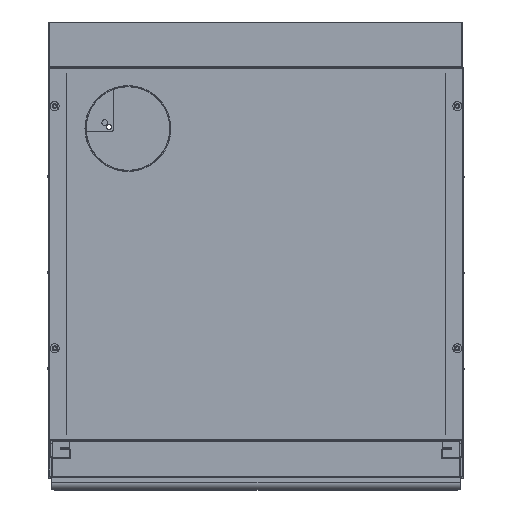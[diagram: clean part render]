
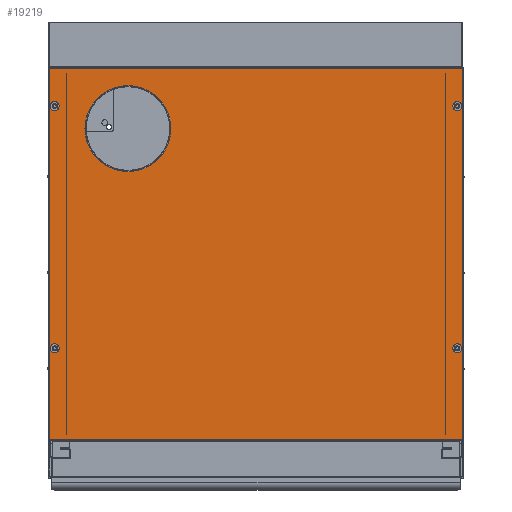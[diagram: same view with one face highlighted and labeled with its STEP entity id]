
A CAD part, top view. The second image highlights one B-rep face of the part: STEP entity #19219.
In plain terms, the highlighted planar face has unit normal (0, 0, 1).
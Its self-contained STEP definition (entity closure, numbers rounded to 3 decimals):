
#1688 = ORIENTED_EDGE ( 'NONE', *, *, #28167, .T. ) ;
#1717 = CARTESIAN_POINT ( 'NONE',  ( 332.7, -152.992, 1269.602 ) ) ;
#1763 = ORIENTED_EDGE ( 'NONE', *, *, #56307, .T. ) ;
#1947 = DIRECTION ( 'NONE',  ( 0., 0., 1. ) ) ;
#2942 = CARTESIAN_POINT ( 'NONE',  ( -332.7, 247.008, 1269.602 ) ) ;
#3603 = CARTESIAN_POINT ( 'NONE',  ( 340.2, -152.992, 1269.602 ) ) ;
#4763 = CIRCLE ( 'NONE', #8627, 7.5 ) ;
#5185 = CARTESIAN_POINT ( 'NONE',  ( 341.698, 310.008, 1269.602 ) ) ;
#5603 = LINE ( 'NONE', #35435, #67757 ) ;
#5718 = VERTEX_POINT ( 'NONE', #21877 ) ;
#6688 = CARTESIAN_POINT ( 'NONE',  ( -211.5, 210.008, 1269.602 ) ) ;
#6935 = VERTEX_POINT ( 'NONE', #48998 ) ;
#7690 = CARTESIAN_POINT ( 'NONE',  ( 341.7, 310.008, 1269.602 ) ) ;
#7737 = DIRECTION ( 'NONE',  ( -1., 0., 0. ) ) ;
#8270 = DIRECTION ( 'NONE',  ( 0., 0., -1. ) ) ;
#8627 = AXIS2_PLACEMENT_3D ( 'NONE', #14303, #56438, #20348 ) ;
#8916 = VERTEX_POINT ( 'NONE', #37272 ) ;
#8955 = DIRECTION ( 'NONE',  ( -1., 0., 0. ) ) ;
#9539 = AXIS2_PLACEMENT_3D ( 'NONE', #61277, #25190, #67327 ) ;
#9914 = AXIS2_PLACEMENT_3D ( 'NONE', #20651, #62749, #26676 ) ;
#10647 = ORIENTED_EDGE ( 'NONE', *, *, #34552, .T. ) ;
#11464 = VECTOR ( 'NONE', #17285, 1000. ) ;
#12195 = CARTESIAN_POINT ( 'NONE',  ( -332.7, -152.992, 1269.602 ) ) ;
#12576 = EDGE_LOOP ( 'NONE', ( #1763, #55477 ) ) ;
#12770 = DIRECTION ( 'NONE',  ( -1., 0., 0. ) ) ;
#12867 = CIRCLE ( 'NONE', #60380, 7.5 ) ;
#13062 = VERTEX_POINT ( 'NONE', #47518 ) ;
#13166 = EDGE_CURVE ( 'NONE', #21301, #6935, #12867, .T. ) ;
#13185 = EDGE_LOOP ( 'NONE', ( #34740, #72023 ) ) ;
#13351 = CIRCLE ( 'NONE', #13995, 71. ) ;
#13397 = CARTESIAN_POINT ( 'NONE',  ( 341.698, -302.992, 1269.602 ) ) ;
#13974 = VERTEX_POINT ( 'NONE', #68793 ) ;
#13995 = AXIS2_PLACEMENT_3D ( 'NONE', #6688, #48859, #12770 ) ;
#14303 = CARTESIAN_POINT ( 'NONE',  ( 332.7, 247.008, 1269.602 ) ) ;
#14533 = CARTESIAN_POINT ( 'NONE',  ( -341.698, 310.006, 1269.602 ) ) ;
#14793 = EDGE_CURVE ( 'NONE', #6935, #21301, #50449, .T. ) ;
#16851 = CARTESIAN_POINT ( 'NONE',  ( -140.5, 210.008, 1269.602 ) ) ;
#16948 = AXIS2_PLACEMENT_3D ( 'NONE', #7690, #1947, #44047 ) ;
#17285 = DIRECTION ( 'NONE',  ( 0., 1., 0. ) ) ;
#18219 = VERTEX_POINT ( 'NONE', #66621 ) ;
#18229 = DIRECTION ( 'NONE',  ( -1., 0., 0. ) ) ;
#18625 = FACE_BOUND ( 'NONE', #70252, .T. ) ;
#19219 = ADVANCED_FACE ( 'NONE', ( #64763, #18625, #34627, #48811, #32754, #40295 ), #37943, .T. ) ;
#20348 = DIRECTION ( 'NONE',  ( -1., 0., 0. ) ) ;
#20559 = EDGE_CURVE ( 'NONE', #74090, #13062, #24060, .T. ) ;
#20651 = CARTESIAN_POINT ( 'NONE',  ( 332.7, 247.008, 1269.602 ) ) ;
#21301 = VERTEX_POINT ( 'NONE', #66096 ) ;
#21877 = CARTESIAN_POINT ( 'NONE',  ( -341.698, -302.992, 1269.602 ) ) ;
#22062 = CARTESIAN_POINT ( 'NONE',  ( 340.2, 247.008, 1269.602 ) ) ;
#22656 = VERTEX_POINT ( 'NONE', #3603 ) ;
#23239 = AXIS2_PLACEMENT_3D ( 'NONE', #2942, #45071, #8955 ) ;
#23328 = DIRECTION ( 'NONE',  ( 0., -1., 0. ) ) ;
#24060 = CIRCLE ( 'NONE', #41722, 7.5 ) ;
#24079 = EDGE_LOOP ( 'NONE', ( #26142, #10647, #77729, #1688, #69523, #36123 ) ) ;
#24864 = VERTEX_POINT ( 'NONE', #55056 ) ;
#25190 = DIRECTION ( 'NONE',  ( 0., 0., -1. ) ) ;
#25910 = VERTEX_POINT ( 'NONE', #16851 ) ;
#26142 = ORIENTED_EDGE ( 'NONE', *, *, #47596, .T. ) ;
#26319 = ORIENTED_EDGE ( 'NONE', *, *, #13166, .T. ) ;
#26676 = DIRECTION ( 'NONE',  ( -1., 0., 0. ) ) ;
#27869 = LINE ( 'NONE', #40017, #58036 ) ;
#28167 = EDGE_CURVE ( 'NONE', #70022, #5718, #5603, .T. ) ;
#28552 = LINE ( 'NONE', #67867, #74730 ) ;
#29545 = DIRECTION ( 'NONE',  ( -1., 0., 0. ) ) ;
#30162 = DIRECTION ( 'NONE',  ( 0., 0., -1. ) ) ;
#31361 = CARTESIAN_POINT ( 'NONE',  ( -332.7, 247.008, 1269.602 ) ) ;
#32754 = FACE_BOUND ( 'NONE', #13185, .T. ) ;
#33354 = CARTESIAN_POINT ( 'NONE',  ( -341.696, 310.006, 1269.602 ) ) ;
#34048 = CIRCLE ( 'NONE', #41069, 7.5 ) ;
#34234 = ORIENTED_EDGE ( 'NONE', *, *, #48699, .T. ) ;
#34552 = EDGE_CURVE ( 'NONE', #13974, #40461, #27869, .T. ) ;
#34627 = FACE_BOUND ( 'NONE', #74110, .T. ) ;
#34740 = ORIENTED_EDGE ( 'NONE', *, *, #20559, .T. ) ;
#35435 = CARTESIAN_POINT ( 'NONE',  ( -341.698, 310.008, 1269.602 ) ) ;
#36036 = EDGE_CURVE ( 'NONE', #5718, #70498, #28552, .T. ) ;
#36123 = ORIENTED_EDGE ( 'NONE', *, *, #38037, .T. ) ;
#36753 = VERTEX_POINT ( 'NONE', #52484 ) ;
#37272 = CARTESIAN_POINT ( 'NONE',  ( 325.2, 247.008, 1269.602 ) ) ;
#37419 = DIRECTION ( 'NONE',  ( -1., 0., 0. ) ) ;
#37943 = PLANE ( 'NONE',  #16948 ) ;
#38037 = EDGE_CURVE ( 'NONE', #70498, #24864, #59479, .T. ) ;
#38101 = ORIENTED_EDGE ( 'NONE', *, *, #55035, .T. ) ;
#40017 = CARTESIAN_POINT ( 'NONE',  ( 341.7, 310.006, 1269.602 ) ) ;
#40295 = FACE_OUTER_BOUND ( 'NONE', #24079, .T. ) ;
#40461 = VERTEX_POINT ( 'NONE', #33354 ) ;
#41069 = AXIS2_PLACEMENT_3D ( 'NONE', #44370, #8270, #50412 ) ;
#41722 = AXIS2_PLACEMENT_3D ( 'NONE', #31361, #73519, #37419 ) ;
#42529 = ORIENTED_EDGE ( 'NONE', *, *, #59530, .T. ) ;
#43098 = AXIS2_PLACEMENT_3D ( 'NONE', #66199, #30162, #72281 ) ;
#43600 = ORIENTED_EDGE ( 'NONE', *, *, #14793, .T. ) ;
#43830 = DIRECTION ( 'NONE',  ( 0., 0., -1. ) ) ;
#44047 = DIRECTION ( 'NONE',  ( 1., 0., 0. ) ) ;
#44370 = CARTESIAN_POINT ( 'NONE',  ( 332.7, -152.992, 1269.602 ) ) ;
#45071 = DIRECTION ( 'NONE',  ( 0., 0., -1. ) ) ;
#45571 = CARTESIAN_POINT ( 'NONE',  ( 341.7, 310.006, 1269.602 ) ) ;
#46081 = VERTEX_POINT ( 'NONE', #22062 ) ;
#47383 = EDGE_LOOP ( 'NONE', ( #43600, #26319 ) ) ;
#47518 = CARTESIAN_POINT ( 'NONE',  ( -325.2, 247.008, 1269.602 ) ) ;
#47596 = EDGE_CURVE ( 'NONE', #24864, #13974, #64563, .T. ) ;
#48598 = VECTOR ( 'NONE', #63672, 1000. ) ;
#48699 = EDGE_CURVE ( 'NONE', #8916, #46081, #65293, .T. ) ;
#48811 = FACE_BOUND ( 'NONE', #47383, .T. ) ;
#48859 = DIRECTION ( 'NONE',  ( 0., 0., -1. ) ) ;
#48998 = CARTESIAN_POINT ( 'NONE',  ( -340.2, -152.992, 1269.602 ) ) ;
#50412 = DIRECTION ( 'NONE',  ( -1., 0., 0. ) ) ;
#50449 = CIRCLE ( 'NONE', #9539, 7.5 ) ;
#52156 = DIRECTION ( 'NONE',  ( -1., 0., 0. ) ) ;
#52484 = CARTESIAN_POINT ( 'NONE',  ( -282.5, 210.008, 1269.602 ) ) ;
#52895 = EDGE_CURVE ( 'NONE', #46081, #8916, #4763, .T. ) ;
#53268 = CIRCLE ( 'NONE', #43098, 71. ) ;
#53296 = EDGE_CURVE ( 'NONE', #13062, #74090, #74423, .T. ) ;
#54312 = DIRECTION ( 'NONE',  ( 0., 0., -1. ) ) ;
#55035 = EDGE_CURVE ( 'NONE', #18219, #22656, #72257, .T. ) ;
#55056 = CARTESIAN_POINT ( 'NONE',  ( 341.698, 310.006, 1269.602 ) ) ;
#55477 = ORIENTED_EDGE ( 'NONE', *, *, #61948, .T. ) ;
#56307 = EDGE_CURVE ( 'NONE', #36753, #25910, #53268, .T. ) ;
#56438 = DIRECTION ( 'NONE',  ( 0., 0., -1. ) ) ;
#58036 = VECTOR ( 'NONE', #52156, 1000. ) ;
#59479 = LINE ( 'NONE', #5185, #11464 ) ;
#59530 = EDGE_CURVE ( 'NONE', #22656, #18219, #34048, .T. ) ;
#59701 = VECTOR ( 'NONE', #29545, 1000. ) ;
#60370 = ORIENTED_EDGE ( 'NONE', *, *, #52895, .T. ) ;
#60380 = AXIS2_PLACEMENT_3D ( 'NONE', #12195, #54312, #18229 ) ;
#61277 = CARTESIAN_POINT ( 'NONE',  ( -332.7, -152.992, 1269.602 ) ) ;
#61948 = EDGE_CURVE ( 'NONE', #25910, #36753, #13351, .T. ) ;
#62749 = DIRECTION ( 'NONE',  ( 0., 0., -1. ) ) ;
#63672 = DIRECTION ( 'NONE',  ( -1., 0., 0. ) ) ;
#64563 = LINE ( 'NONE', #45571, #48598 ) ;
#64763 = FACE_BOUND ( 'NONE', #12576, .T. ) ;
#65293 = CIRCLE ( 'NONE', #9914, 7.5 ) ;
#65574 = CARTESIAN_POINT ( 'NONE',  ( 341.7, 310.006, 1269.602 ) ) ;
#66096 = CARTESIAN_POINT ( 'NONE',  ( -325.2, -152.992, 1269.602 ) ) ;
#66199 = CARTESIAN_POINT ( 'NONE',  ( -211.5, 210.008, 1269.602 ) ) ;
#66621 = CARTESIAN_POINT ( 'NONE',  ( 325.2, -152.992, 1269.602 ) ) ;
#66685 = AXIS2_PLACEMENT_3D ( 'NONE', #1717, #43830, #7737 ) ;
#67327 = DIRECTION ( 'NONE',  ( -1., 0., 0. ) ) ;
#67608 = DIRECTION ( 'NONE',  ( 1., 0., 0. ) ) ;
#67757 = VECTOR ( 'NONE', #23328, 1000. ) ;
#67867 = CARTESIAN_POINT ( 'NONE',  ( 341.7, -302.992, 1269.602 ) ) ;
#68793 = CARTESIAN_POINT ( 'NONE',  ( 341.696, 310.006, 1269.602 ) ) ;
#69466 = EDGE_CURVE ( 'NONE', #40461, #70022, #71916, .T. ) ;
#69523 = ORIENTED_EDGE ( 'NONE', *, *, #36036, .T. ) ;
#70022 = VERTEX_POINT ( 'NONE', #14533 ) ;
#70231 = CARTESIAN_POINT ( 'NONE',  ( -340.2, 247.008, 1269.602 ) ) ;
#70252 = EDGE_LOOP ( 'NONE', ( #38101, #42529 ) ) ;
#70498 = VERTEX_POINT ( 'NONE', #13397 ) ;
#71916 = LINE ( 'NONE', #65574, #59701 ) ;
#72023 = ORIENTED_EDGE ( 'NONE', *, *, #53296, .T. ) ;
#72257 = CIRCLE ( 'NONE', #66685, 7.5 ) ;
#72281 = DIRECTION ( 'NONE',  ( -1., 0., 0. ) ) ;
#73519 = DIRECTION ( 'NONE',  ( 0., 0., -1. ) ) ;
#74090 = VERTEX_POINT ( 'NONE', #70231 ) ;
#74110 = EDGE_LOOP ( 'NONE', ( #34234, #60370 ) ) ;
#74423 = CIRCLE ( 'NONE', #23239, 7.5 ) ;
#74730 = VECTOR ( 'NONE', #67608, 1000. ) ;
#77729 = ORIENTED_EDGE ( 'NONE', *, *, #69466, .T. ) ;
